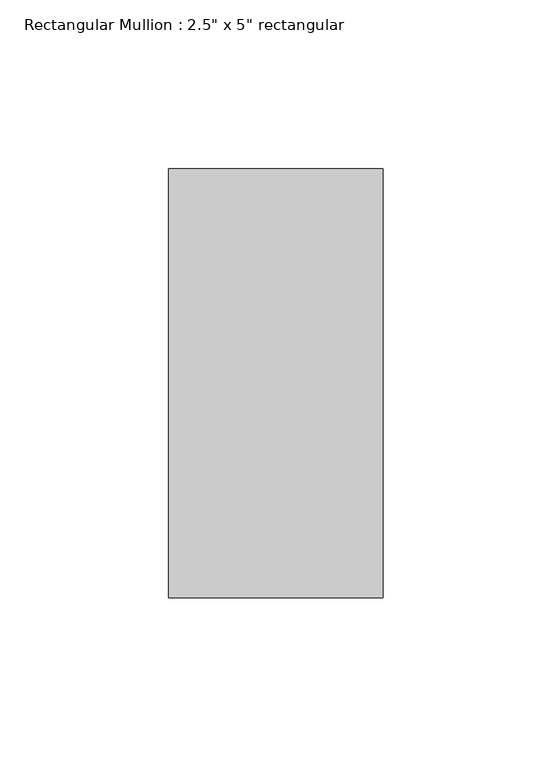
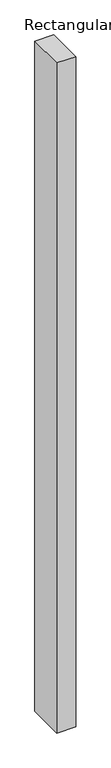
"""IFC4 building model written with IfcOpenShell, lengths in millimetres: member geometry."""

from ifc_helpers import new_model, si_unit, frame, origin, place, context, project, spatial, polyline, outline, extrude, source, transform, mapped, element, save


def member_6c7b7f5c(model_context):
    return source(origin(), model_context, "Body", "SweptSolid", [
        extrude(outline(polyline([(31.75, 63.5), (31.75, -63.5), (-31.75, -63.5), (-31.75, 63.5), (31.75, 63.5)])), frame((0.0, 0.0, -2374.8999999), z_axis=(0.0, 0.0, 1.0), x_axis=(1.0, 0.0, 0.0)), (0.0, 0.0, 1.0), 2374.8999999),
    ])


if __name__ == "__main__":
    model = new_model("IFC4")
    model_context = context("Model", 3, world=origin())
    ifc_project = project(units=[si_unit("LENGTHUNIT", "METRE", prefix="MILLI")], contexts=[model_context])
    site = spatial("IfcSite", under=ifc_project)
    building = spatial("IfcBuilding", under=site)
    placement = place(None, origin())
    member_shape = member_6c7b7f5c(model_context)
    element("IfcMember", 1, ObjectType="Rectangular Mullion : 2.5\" x 5\" rectangular", at=placement, inside=building, context=model_context, shape_type="MappedRepresentation", body=[
        mapped(member_shape, transform((0.0, 0.0, 0.0), x_axis=(1.0, 0.0, 0.0), y_axis=(0.0, 1.0, 0.0), z_axis=(0.0, 0.0, 1.0))),
    ])
    save(model, "model.ifc")
